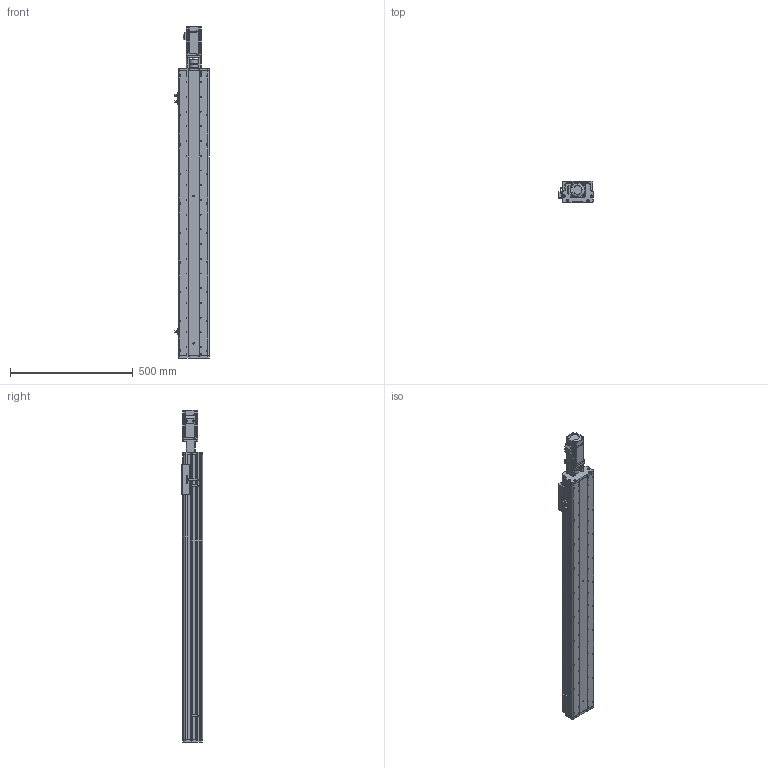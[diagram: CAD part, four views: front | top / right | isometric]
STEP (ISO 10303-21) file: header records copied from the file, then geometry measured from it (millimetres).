
FILE_DESCRIPTION (( 'STEP AP214' ), '1' );
FILE_NAME ('KSD125S-S950-MT-CM.STEP', '2017-08-07T06:50:31', ( '微软用户' ), ( '微软中国' ), 'SwSTEP 2.0', 'SolidWorks 2014', '' );
FILE_SCHEMA (( 'AUTOMOTIVE_DESIGN' ));
Length unit declared in the file: millimetre
Products named in the file (13): U倰嫖萇EEㄜSX672; ヶ傷啣-125遵耀郪; CS-34X32-10X14; 125-帣傷啣1; KSD125S-S950-MT-CM; KSD125-賑雄釱1; KSD125S-950俴最佪裝滅鳥裔; MHMD042G1CA_2_03; 100遵鎮湛假蚾啣1 ; KSD125S-950俴最佪裝菁啣; 拸萇儂釱滅袉菜; 覜茼え68遵圉猾敕; U倰嫖萇假蚾璃
Assembly tree (16 placements, depth 2):
  KSD125S-S950-MT-CM
    125-帣傷啣1
    CS-34X32-10X14
    ヶ傷啣-125遵耀郪
    U倰嫖萇EEㄜSX672  x3
    U倰嫖萇假蚾璃  x3
    覜茼え68遵圉猾敕
    拸萇儂釱滅袉菜
    100遵鎮湛假蚾啣1 
    MHMD042G1CA_2_03
    KSD125-賑雄釱1
    KSD125S-950俴最佪裝菁啣
    KSD125S-950俴最佪裝滅鳥裔
Bounding box: 138.7 x 86 x 1353.5 mm (x, y, z)
Volume: 3770953.1 mm3; surface area: 1237638.3 mm2
Topology: 15 solids, 18 shells, 1590 faces, 4592 edges, 3023 vertices
Faces by surface type: cylinder 830, plane 647, cone 91, bspline 22
Entity records: 56389 total; most frequent: CARTESIAN_POINT 11796, DIRECTION 8106, ORIENTED_EDGE 7692, EDGE_CURVE 3924, AXIS2_PLACEMENT_3D 3011, VERTEX_POINT 2615, LINE 2084, VECTOR 2084
